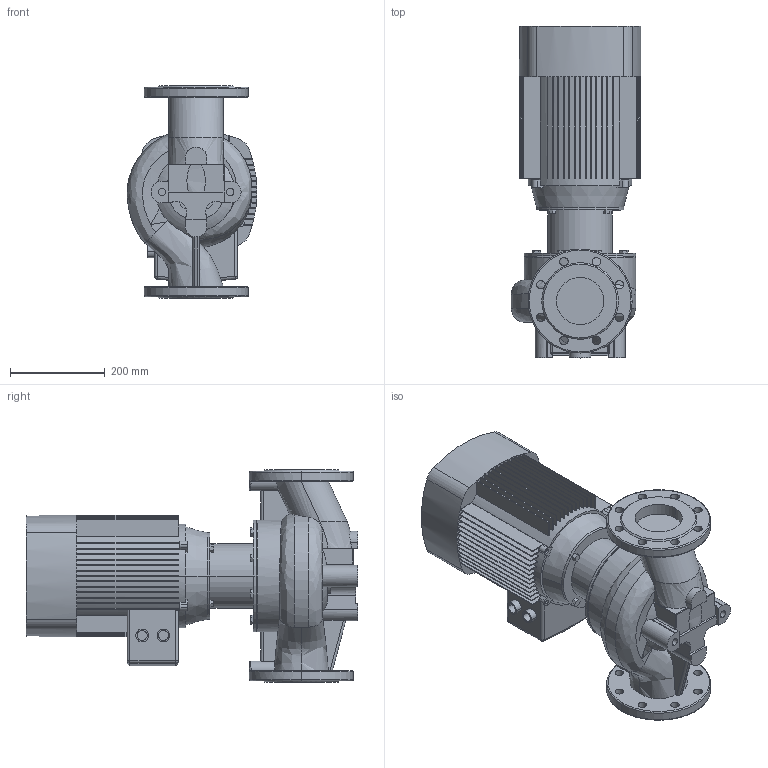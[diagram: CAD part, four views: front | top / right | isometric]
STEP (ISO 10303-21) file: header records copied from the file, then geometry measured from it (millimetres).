
FILE_DESCRIPTION (( 'STEP AP203' ), '1' );
FILE_NAME ('TD100-17G_2.STEP', '2022-05-02T18:56:43', ( '' ), ( '' ), 'SwSTEP 2.0', 'SolidWorks 2019', '' );
FILE_SCHEMA (( 'CONFIG_CONTROL_DESIGN' ));
Length unit declared in the file: millimetre
Products named in the file (4): TD100-17G_2; Fon_100_TD100-17G_2; Pr_ch 100_TD100-17G_2; ED_B14_YE2-132S1-2 (5.5)
Assembly tree (3 placements, depth 2):
  TD100-17G_2
    Pr_ch 100_TD100-17G_2
    Fon_100_TD100-17G_2
    ED_B14_YE2-132S1-2 (5.5)
Bounding box: 274.41 x 702 x 450 mm (x, y, z)
Volume: 30255185 mm3; surface area: 1631333.4 mm2
Topology: 3 solids, 5 shells, 666 faces, 1833 edges, 1203 vertices
Faces by surface type: plane 426, cylinder 175, bspline 28, torus 20, cone 11, sphere 6
Entity records: 28741 total; most frequent: CARTESIAN_POINT 11194, ORIENTED_EDGE 3660, DIRECTION 3552, EDGE_CURVE 1830, AXIS2_PLACEMENT_3D 1259, VERTEX_POINT 1203, VECTOR 1034, LINE 1034
